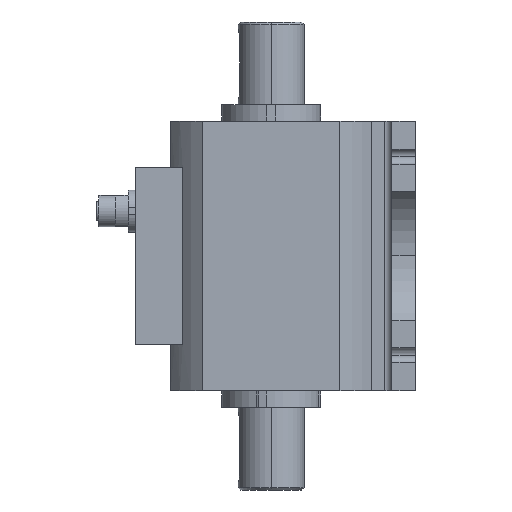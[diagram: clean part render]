
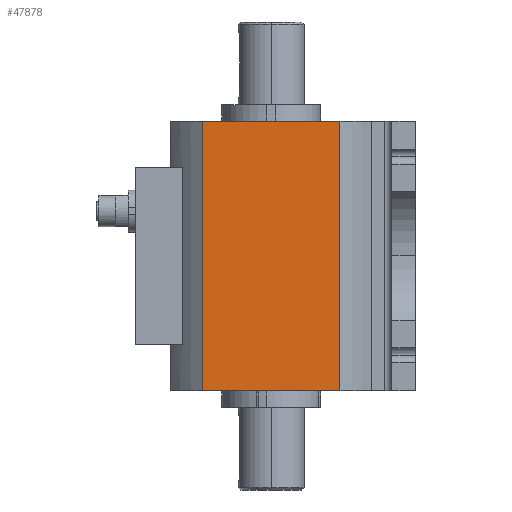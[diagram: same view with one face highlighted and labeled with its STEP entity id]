
A CAD part, left-side view. The second image highlights one B-rep face of the part: STEP entity #47878.
In plain terms, the highlighted planar face has unit normal (-1, 0, 0).
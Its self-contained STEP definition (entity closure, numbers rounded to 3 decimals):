
#2250 = LINE ( 'NONE', #64077, #19249 ) ;
#7716 = EDGE_CURVE ( 'NONE', #29911, #80990, #2250, .T. ) ;
#7945 = EDGE_LOOP ( 'NONE', ( #48744, #10673, #24151, #38659 ) ) ;
#10673 = ORIENTED_EDGE ( 'NONE', *, *, #21440, .F. ) ;
#12587 = CARTESIAN_POINT ( 'NONE',  ( -42.5, 29.086, -57. ) ) ;
#15995 = VECTOR ( 'NONE', #31162, 1000. ) ;
#16270 = VERTEX_POINT ( 'NONE', #75059 ) ;
#18344 = LINE ( 'NONE', #47815, #56956 ) ;
#19249 = VECTOR ( 'NONE', #49445, 1000. ) ;
#20931 = EDGE_CURVE ( 'NONE', #16270, #77486, #18344, .T. ) ;
#21440 = EDGE_CURVE ( 'NONE', #80990, #77486, #56873, .T. ) ;
#24151 = ORIENTED_EDGE ( 'NONE', *, *, #7716, .F. ) ;
#27529 = PLANE ( 'NONE',  #91357 ) ;
#29911 = VERTEX_POINT ( 'NONE', #62326 ) ;
#31162 = DIRECTION ( 'NONE',  ( 0., 0., 1. ) ) ;
#34761 = DIRECTION ( 'NONE',  ( 0., 1., 0. ) ) ;
#34806 = CARTESIAN_POINT ( 'NONE',  ( -42.5, -29.086, 57. ) ) ;
#38659 = ORIENTED_EDGE ( 'NONE', *, *, #78231, .F. ) ;
#39019 = LINE ( 'NONE', #34806, #56081 ) ;
#42159 = DIRECTION ( 'NONE',  ( 0., 0., -1. ) ) ;
#47815 = CARTESIAN_POINT ( 'NONE',  ( -42.5, 30.963, 57. ) ) ;
#47878 = ADVANCED_FACE ( 'NONE', ( #54710 ), #27529, .F. ) ;
#48744 = ORIENTED_EDGE ( 'NONE', *, *, #20931, .T. ) ;
#49445 = DIRECTION ( 'NONE',  ( 0., 1., 0. ) ) ;
#54710 = FACE_OUTER_BOUND ( 'NONE', #7945, .T. ) ;
#56081 = VECTOR ( 'NONE', #42159, 1000. ) ;
#56419 = CARTESIAN_POINT ( 'NONE',  ( -42.5, 30.963, -198. ) ) ;
#56873 = LINE ( 'NONE', #74810, #15995 ) ;
#56956 = VECTOR ( 'NONE', #91342, 1000. ) ;
#62326 = CARTESIAN_POINT ( 'NONE',  ( -42.5, -29.086, -57. ) ) ;
#64077 = CARTESIAN_POINT ( 'NONE',  ( -42.5, 0., -57. ) ) ;
#74810 = CARTESIAN_POINT ( 'NONE',  ( -42.5, 29.086, 57. ) ) ;
#75059 = CARTESIAN_POINT ( 'NONE',  ( -42.5, -29.086, 57. ) ) ;
#75748 = CARTESIAN_POINT ( 'NONE',  ( -42.5, 29.086, 57. ) ) ;
#77486 = VERTEX_POINT ( 'NONE', #75748 ) ;
#78231 = EDGE_CURVE ( 'NONE', #16270, #29911, #39019, .T. ) ;
#78368 = DIRECTION ( 'NONE',  ( 1., 0., 0. ) ) ;
#80990 = VERTEX_POINT ( 'NONE', #12587 ) ;
#91342 = DIRECTION ( 'NONE',  ( 0., 1., 0. ) ) ;
#91357 = AXIS2_PLACEMENT_3D ( 'NONE', #56419, #78368, #34761 ) ;
